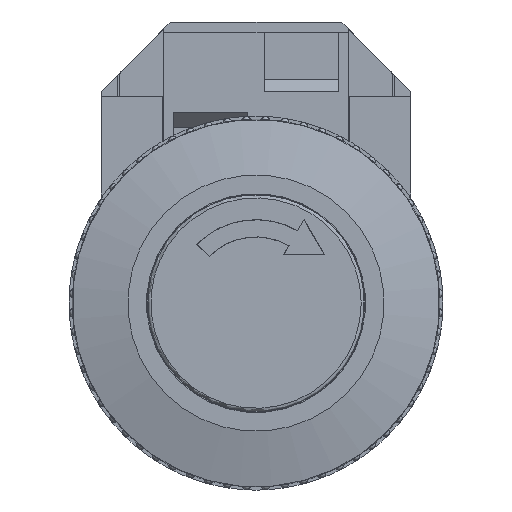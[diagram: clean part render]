
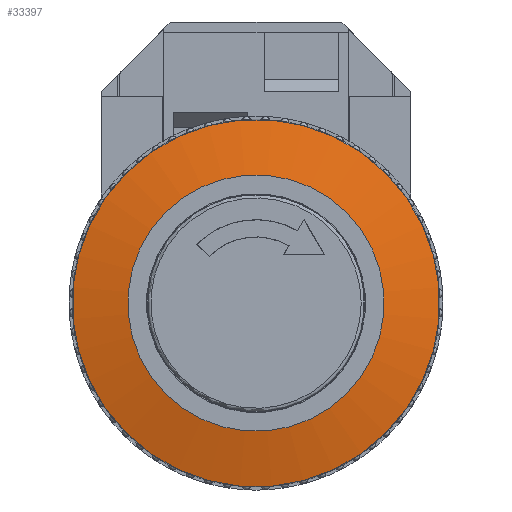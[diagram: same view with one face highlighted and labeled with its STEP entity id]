
A CAD part, top view. The second image highlights one B-rep face of the part: STEP entity #33397.
In plain terms, the highlighted conical face has half-angle 77.005 degrees and reference radius 14.6 mm.
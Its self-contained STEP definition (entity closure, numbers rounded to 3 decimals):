
#31589=CARTESIAN_POINT('',(12.162,12.162,59.));
#31590=VERTEX_POINT('',#31589);
#31591=CARTESIAN_POINT('',(0.,0.,59.));
#31592=DIRECTION('',(0.,0.,-1.0));
#31593=DIRECTION('',(0.707,0.707,0.));
#31594=AXIS2_PLACEMENT_3D('',#31591,#31592,#31593);
#31595=CIRCLE('',#31594,17.2);
#31596=EDGE_CURVE('',#31590,#31590,#31595,.T.);
#33378=CARTESIAN_POINT('',(0.,0.,59.6));
#33379=DIRECTION('',(0.,0.,-1.0));
#33380=DIRECTION('',(0.707,0.707,0.));
#33381=AXIS2_PLACEMENT_3D('',#33378,#33379,#33380);
#33382=CONICAL_SURFACE('',#33381,14.6,77.005);
#33383=ORIENTED_EDGE('',*,*,#31596,.F.);
#33384=EDGE_LOOP('',(#33383));
#33385=FACE_OUTER_BOUND('',#33384,.T.);
#33386=CARTESIAN_POINT('',(8.485,8.485,60.2));
#33387=VERTEX_POINT('',#33386);
#33388=CARTESIAN_POINT('',(0.,0.,60.2));
#33389=DIRECTION('',(0.,0.,-1.0));
#33390=DIRECTION('',(0.707,0.707,0.));
#33391=AXIS2_PLACEMENT_3D('',#33388,#33389,#33390);
#33392=CIRCLE('',#33391,12.);
#33393=EDGE_CURVE('',#33387,#33387,#33392,.T.);
#33394=ORIENTED_EDGE('',*,*,#33393,.T.);
#33395=EDGE_LOOP('',(#33394));
#33396=FACE_BOUND('',#33395,.T.);
#33397=ADVANCED_FACE('',(#33385,#33396),#33382,.T.);
